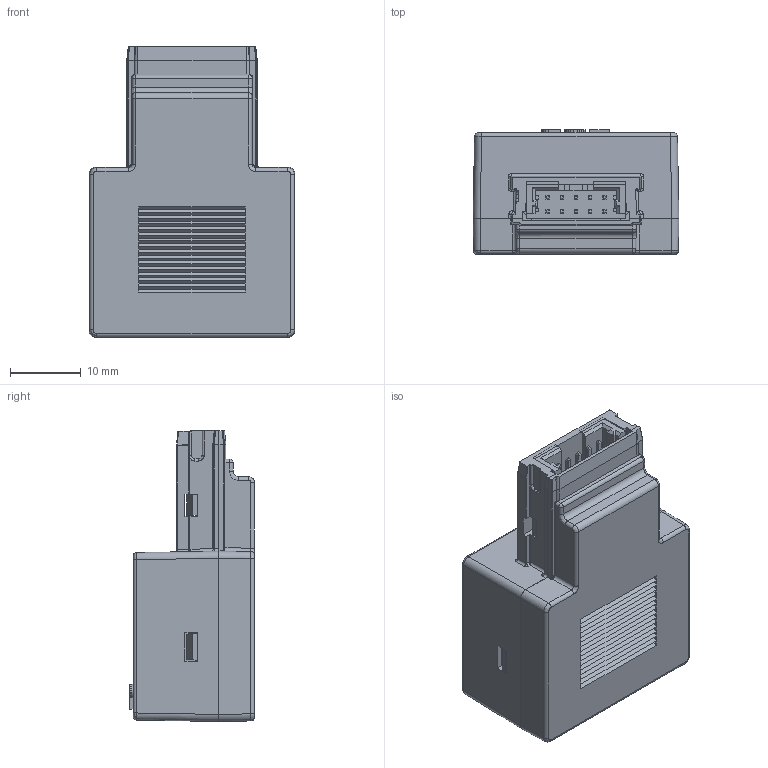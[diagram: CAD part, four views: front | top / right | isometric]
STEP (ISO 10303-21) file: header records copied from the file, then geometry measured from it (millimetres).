
FILE_DESCRIPTION((''),'2;1');
FILE_NAME('ASM_OPTIMUS_0_USB_ASM','2011-05-27T',('kchin'),('Rockwell Automation'),'PRO/ENGINEER BY PARAMETRIC TECHNOLOGY CORPORATION, 2005110','PRO/ENGINEER BY PARAMETRIC TECHNOLOGY CORPORATION, 2005110','');
FILE_SCHEMA(('CONFIG_CONTROL_DESIGN'));
Products named in the file (24): 10000090748; 93435401_101_0303; CP_0603_PRI; CP_0402; RS_1206_PRI; PBFREE_200_SEC; PBFREE_200_PRI; IC_SOT23_6PIN; CN_PN-41694; RS_0603_PRI; DS_EVERLIGHT_16-213; IND_94534401; RS_0603_SEC; STD_SOT23_5PIN; CP_0805_PRI; STD_SOT23_PO132_PRI; IND_0603_PRI; RS_0402; IC_QFN28_5X5MM; IC_943907; CN_PN-66892; 93435401_101_0303_ASM; 10000090746; ASM_OPTIMUS_0_USB_ASM
Assembly tree (34 placements, depth 3):
  ASM_OPTIMUS_0_USB_ASM
    10000090748
    93435401_101_0303_ASM
      93435401_101_0303
      CP_0603_PRI  x5
      CP_0402  x2
      RS_1206_PRI  x2
      PBFREE_200_SEC
      PBFREE_200_PRI
      IC_SOT23_6PIN
      CN_PN-41694
      RS_0603_PRI  x3
      DS_EVERLIGHT_16-213
      IND_94534401
      RS_0603_SEC  x2
      STD_SOT23_5PIN
      CP_0805_PRI
      STD_SOT23_PO132_PRI
      IND_0603_PRI
      RS_0402  x2
      IC_QFN28_5X5MM
      IC_943907  x2
      CN_PN-66892
    10000090746
Bounding box: 29 x 17.58 x 41 mm (x, y, z)
Volume: 6709.4 mm3; surface area: 12701 mm2
Topology: 33 solids, 33 shells, 2515 faces, 6562 edges, 4180 vertices
Faces by surface type: plane 1923, cylinder 448, bspline 99, sphere 20, torus 20, cone 5
Entity records: 67063 total; most frequent: CARTESIAN_POINT 14009, ORIENTED_EDGE 11236, DIRECTION 10290, EDGE_CURVE 5618, VECTOR 4880, LINE 4880, VERTEX_POINT 3596, AXIS2_PLACEMENT_3D 2705
